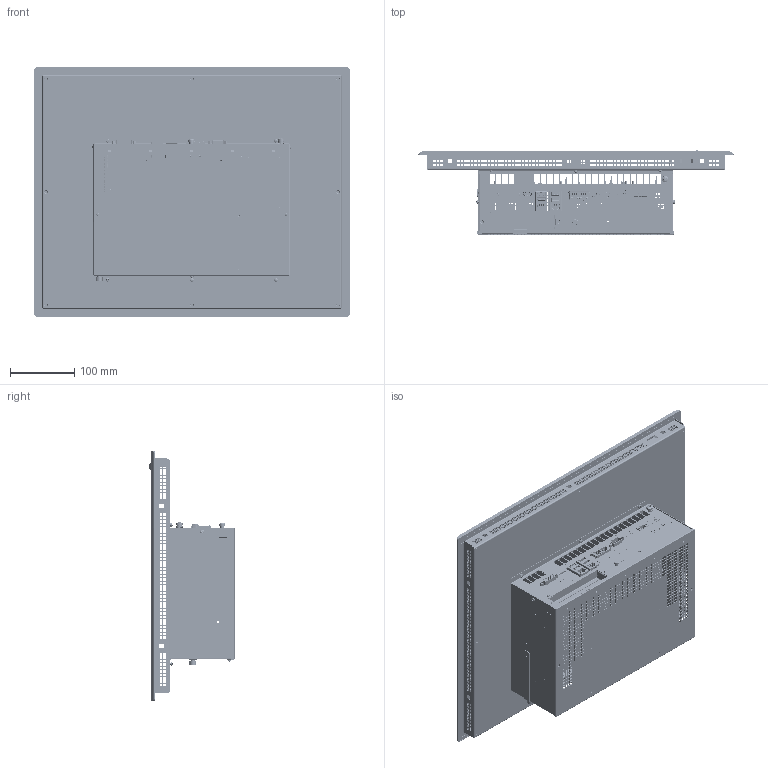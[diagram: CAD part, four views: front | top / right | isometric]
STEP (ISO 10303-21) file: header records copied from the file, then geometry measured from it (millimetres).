
FILE_DESCRIPTION (( 'STEP AP214' ), '1' );
FILE_NAME ('C6P34-Panel_190_Res_S1.STEP', '2019-09-20T08:20:51', ( '' ), ( '' ), 'SwSTEP 2.0', 'SolidWorks 2018', '' );
FILE_SCHEMA (( 'AUTOMOTIVE_DESIGN' ));
Length unit declared in the file: millimetre
Products named in the file (158): D02201703; 57902481; 65720030; 58702102; 21409042; 21404036; 52912002; C6P34-Panel_190_Res_S1; 58502114; 51702303_Default<A macchina>; 62920002; 66320016; 14300028; 21410052; 66320001; 56636620; 58102117; 65720029; 66320015; 69111027; 51524089; 69111028; piazzuola_de800_di370; 21614000; 57902482; 14300025; 55202070; 21405029; 59702267; 21509026; 21410046; 48000065; 21502089; 57936013; 23330039; 62920009; 21410015; 7397_227; 21410056; 7359_056_Depopolato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
Assembly tree (111 placements, depth 4):
  65720030
  58702102
  21409042
  21404036
  65720030
Bounding box: 490 x 132.34 x 388 mm (x, y, z)
Volume: 1718897.3 mm3; surface area: 1825951.9 mm2
Topology: 192 solids, 210 shells, 25705 faces, 72315 edges, 47352 vertices
Faces by surface type: plane 19807, cylinder 4473, bspline 775, cone 519, torus 111, sphere 20
Full cylindrical faces by diameter (mm): 0.3 x9, 0.434 x1, 0.6 x30, 0.65 x6, 0.7 x165, 0.8 x36, 0.85 x66, 0.9 x175, 0.95 x11, 1 x119, 1.1 x3, 1.2 x10, 1.32 x2, 1.35 x4, 1.4 x8, 1.5 x6, 1.6 x7, 1.7 x4, 1.8 x3, 1.9 x4, 1.95 x4, 2 x1, 2.05 x1, 2.3 x18, 2.4 x9, 2.5 x18, 2.6 x5, 2.8 x3, 2.874 x1, 3 x46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
Entity records: 767284 total; most frequent: CARTESIAN_POINT 163165, ORIENTED_EDGE 124614, DIRECTION 110349, EDGE_CURVE 62697, VECTOR 52697, LINE 52697, VERTEX_POINT 41661, EDGE_LOOP 29497
